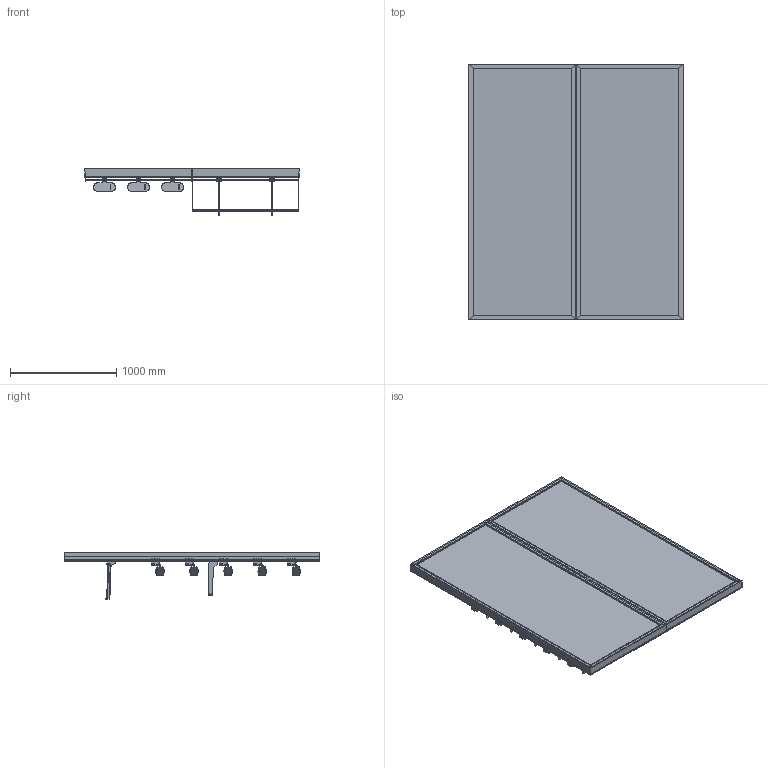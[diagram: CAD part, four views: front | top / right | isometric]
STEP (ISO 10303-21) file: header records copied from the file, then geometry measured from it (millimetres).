
FILE_DESCRIPTION (( 'STEP AP203' ), '1' );
FILE_NAME ('High-Capacity Apparel & Angled Footwear Display Wall (Config 2).STEP', '2026-03-31T11:43:37', ( '' ), ( '' ), 'SwSTEP 2.0', 'SolidWorks 2025', '' );
FILE_SCHEMA (( 'CONFIG_CONTROL_DESIGN' ));
Length unit declared in the file: millimetre
Products named in the file (18): 0001-31-131.STEP; 0001-31-SA26 - 1005W Rear support Bar.STEP; 0001-31-112.STEP; 0001-31-SA27 - Forward Facing Arm.STEP; 0001-31-SA25 - 1005W Side Facing D Rail.STEP; Wide Angled Shoe Merchandising Display_Assem13; 0001-31-104.STEP; 0001-31-110.STEP; 0001-31-SA26 - 1005W Rear support Bar_Assem8; High-Capacity Apparel & Angled Footwear Display Wall (Config 2); 0001-31-130.STEP; 0001-31-GA10 - 1005W Slotted upbright; 0001-31-103.STEP; 0001-31-100.STEP; 373-01-GA01; 0001-31-SA25 - 1005W Side Facing D Rail_Assem9; 0001-31-SA27 - Forward Facing Arm_Assem11; Heavy-Duty Single Clothing Display Wall (Config 2)_Assem7
Assembly tree (40 placements, depth 5):
  High-Capacity Apparel & Angled Footwear Display Wall (Config 2)
    Heavy-Duty Single Clothing Display Wall (Config 2)_Assem7
      0001-31-GA10 - 1005W Slotted upbright
      0001-31-SA27 - Forward Facing Arm_Assem11  x2
        0001-31-SA27 - Forward Facing Arm.STEP
          0001-31-104.STEP
          0001-31-112.STEP
          0001-31-110.STEP
      0001-31-SA25 - 1005W Side Facing D Rail_Assem9
        0001-31-SA25 - 1005W Side Facing D Rail.STEP
          0001-31-100.STEP  x2
          0001-31-130.STEP
      0001-31-SA26 - 1005W Rear support Bar_Assem8
        0001-31-SA26 - 1005W Rear support Bar.STEP
          0001-31-103.STEP  x2
          0001-31-131.STEP
    Wide Angled Shoe Merchandising Display_Assem13
      0001-31-GA10 - 1005W Slotted upbright
      0001-31-SA26 - 1005W Rear support Bar_Assem8  x5
        0001-31-SA26 - 1005W Rear support Bar.STEP
          0001-31-103.STEP  x2
          0001-31-131.STEP
      373-01-GA01  x15
Bounding box: 2011.48 x 2400 x 436.21 mm (x, y, z)
Volume: 17956040.6 mm3; surface area: 25806097.2 mm2
Topology: 54 solids, 54 shells, 2383 faces, 7412 edges, 4856 vertices
Faces by surface type: plane 1935, cylinder 418, bspline 30
Entity records: 31972 total; most frequent: CARTESIAN_POINT 5734, ORIENTED_EDGE 5376, DIRECTION 4348, EDGE_CURVE 2688, VECTOR 2480, LINE 2480, VERTEX_POINT 1784, EDGE_LOOP 960
